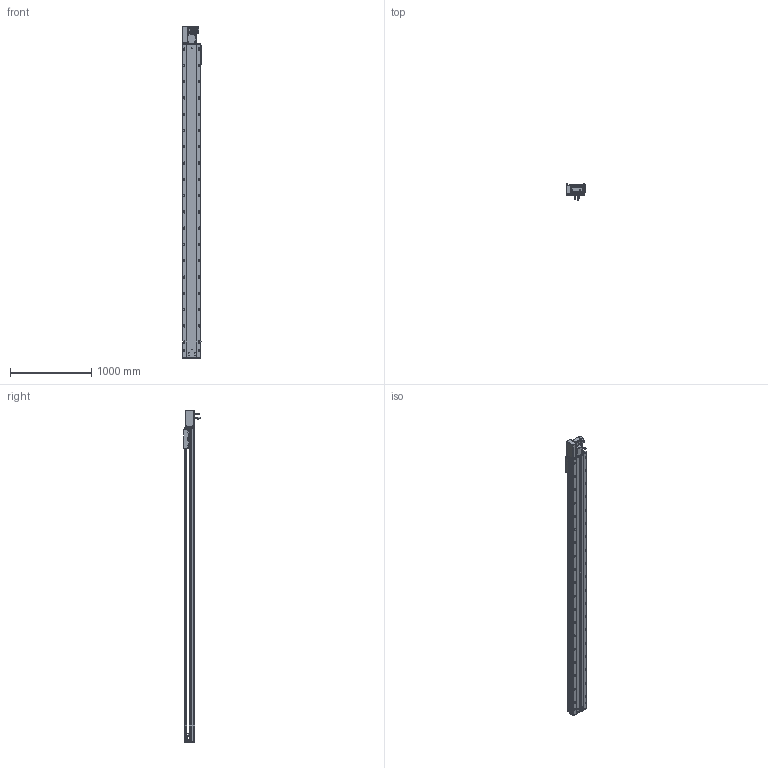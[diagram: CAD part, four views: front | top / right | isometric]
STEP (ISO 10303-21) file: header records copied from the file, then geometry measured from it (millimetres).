
FILE_DESCRIPTION (( 'STEP AP203' ), '1' );
FILE_NAME ('RY220-T-300-LK.SLDASM_3500.step', '2022-07-25T08:17:23', ( '' ), ( '' ), 'SwSTEP 2.0', 'SolidWorks 2016', '' );
FILE_SCHEMA (( 'CONFIG_CONTROL_DESIGN' ));
Length unit declared in the file: millimetre
Products named in the file (14): RY220-T-湍謫欶(鍼踢); 覜茼ん672; RY220-T-蛌殏萇儂假蚾啣(750W); RY220翋肮祭謫釱; RY220翋肮祭謫裔啣; RY220-同步轮副支撑座6304×2; RY220-俋离672覜茼んえ; RY220圉猾敕々湍臏賑輸; 怢湛750W_ECMA-CX0807ES; RY220-T-300-奻裔啣_3500; RY220-T-300-LK.SLDASM_3500; 滅袉蝶18-15; RY220-T菁釱-300_3500; 110A-T-肮祭謫釱傷裔
Assembly tree (18 placements, depth 2):
  RY220-T-300-LK.SLDASM_3500
    RY220-T菁釱-300_3500
    RY220翋肮祭謫釱
    覜茼ん672  x3
    RY220圉猾敕々湍臏賑輸
    RY220-T-300-奻裔啣_3500
    RY220-俋离672覜茼んえ
    滅袉蝶18-15  x3
    RY220翋肮祭謫裔啣  x2
    110A-T-肮祭謫釱傷裔
    怢湛750W_ECMA-CX0807ES
    RY220-T-湍謫欶(鍼踢)
    RY220-T-蛌殏萇儂假蚾啣(750W)
    RY220-同步轮副支撑座6304×2
Bounding box: 239.7 x 198.77 x 4079 mm (x, y, z)
Volume: 28437650.5 mm3; surface area: 8854049.8 mm2
Topology: 19 solids, 19 shells, 3134 faces, 8679 edges, 5416 vertices
Faces by surface type: cylinder 1570, plane 1069, cone 413, bspline 56, sphere 16, torus 10
Entity records: 104659 total; most frequent: CARTESIAN_POINT 29445, ORIENTED_EDGE 15514, DIRECTION 15072, EDGE_CURVE 7757, AXIS2_PLACEMENT_3D 5472, VERTEX_POINT 5040, VECTOR 4128, LINE 4128
